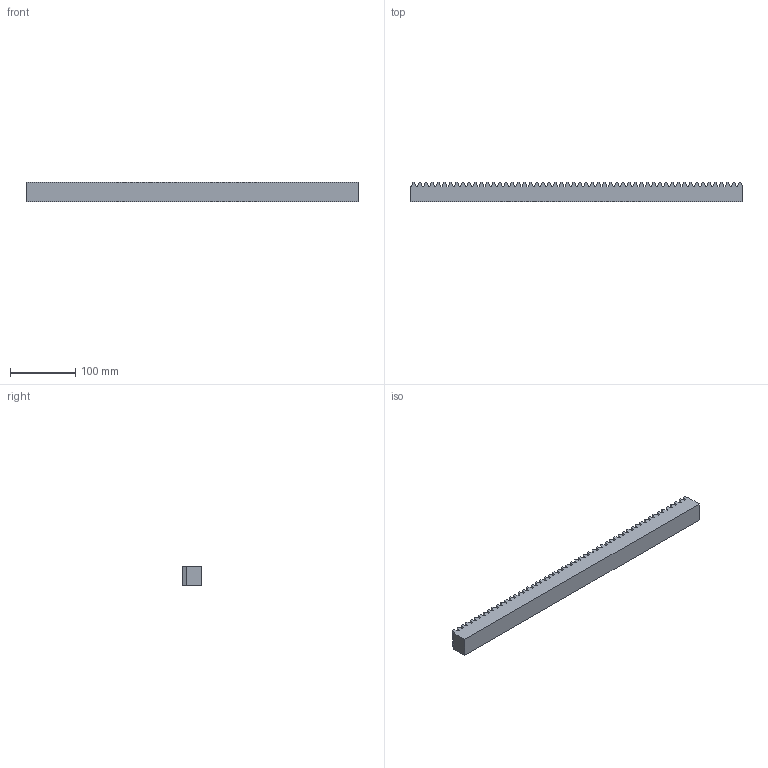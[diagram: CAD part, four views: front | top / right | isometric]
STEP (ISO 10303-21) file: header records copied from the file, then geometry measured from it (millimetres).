
FILE_DESCRIPTION(/* description */ (''),/* implementation_level */ '2;1');
FILE_NAME(/* name */ 'C:\Users\stagistaCAD\Desktop\30930050.stp',/* time_stamp */ '2018-06-14T15:09:59+02:00',/* author */ ('stagistacad'),/* organization */ (''),/* preprocessor_version */ 'ST-DEVELOPER v15.6',/* originating_system */ 'Autodesk Inventor 2015',/* authorisation */ '');
FILE_SCHEMA (('AUTOMOTIVE_DESIGN { 1 0 10303 214 3 1 1 }'));
Length unit declared in the file: millimetre
Products named in the file (1): 30930050
Bounding box: 508.3 x 30 x 30 mm (x, y, z)
Volume: 409037.5 mm3; surface area: 74491.5 mm2
Topology: 1 solids, 1 shells, 221 faces, 657 edges, 438 vertices
Faces by surface type: plane 221
Entity records: 7275 total; most frequent: CARTESIAN_POINT 1317, ORIENTED_EDGE 1314, DIRECTION 1101, LINE 657, VECTOR 657, EDGE_CURVE 657, VERTEX_POINT 438, AXIS2_PLACEMENT_3D 222
